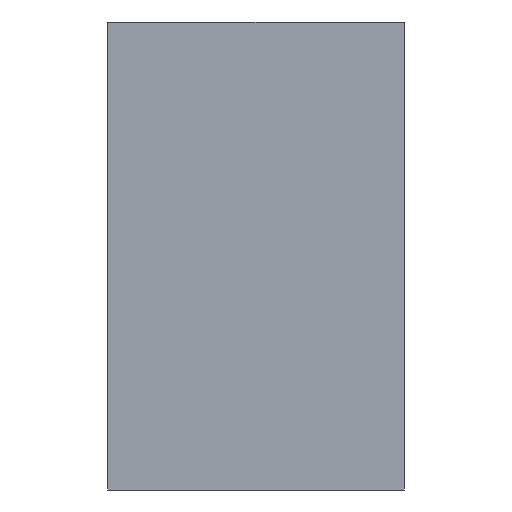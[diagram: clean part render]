
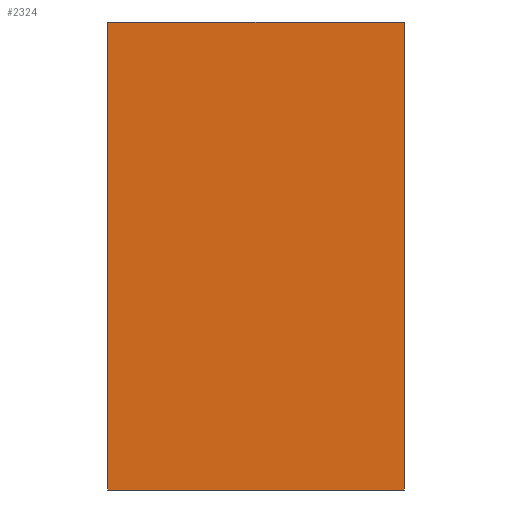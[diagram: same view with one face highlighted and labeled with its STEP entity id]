
A CAD part, left-side view. The second image highlights one B-rep face of the part: STEP entity #2324.
In plain terms, the highlighted planar face has unit normal (-1, 0, 0).
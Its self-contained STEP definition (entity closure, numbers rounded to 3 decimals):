
#273 = EDGE_CURVE ( 'NONE', #1117, #348, #4778, .T. ) ;
#311 = CARTESIAN_POINT ( 'NONE',  ( 0., -19., -30. ) ) ;
#319 = CARTESIAN_POINT ( 'NONE',  ( 0., 19., 30. ) ) ;
#348 = VERTEX_POINT ( 'NONE', #4791 ) ;
#564 = CARTESIAN_POINT ( 'NONE',  ( 0., -19., 30. ) ) ;
#836 = VERTEX_POINT ( 'NONE', #564 ) ;
#1117 = VERTEX_POINT ( 'NONE', #311 ) ;
#1615 = ORIENTED_EDGE ( 'NONE', *, *, #4483, .F. ) ;
#1674 = PLANE ( 'NONE',  #2762 ) ;
#1720 = EDGE_LOOP ( 'NONE', ( #1615, #3086, #2973, #3540 ) ) ;
#2062 = CARTESIAN_POINT ( 'NONE',  ( 0., 19., -30. ) ) ;
#2106 = DIRECTION ( 'NONE',  ( -1., 0., 0. ) ) ;
#2129 = DIRECTION ( 'NONE',  ( 0., 0., 1. ) ) ;
#2274 = VERTEX_POINT ( 'NONE', #319 ) ;
#2324 = ADVANCED_FACE ( 'NONE', ( #3228 ), #1674, .T. ) ;
#2567 = VECTOR ( 'NONE', #4732, 1000. ) ;
#2584 = LINE ( 'NONE', #4698, #2567 ) ;
#2588 = VECTOR ( 'NONE', #4478, 1000. ) ;
#2592 = LINE ( 'NONE', #4419, #2588 ) ;
#2762 = AXIS2_PLACEMENT_3D ( 'NONE', #2062, #2106, #2129 ) ;
#2973 = ORIENTED_EDGE ( 'NONE', *, *, #3402, .T. ) ;
#3086 = ORIENTED_EDGE ( 'NONE', *, *, #273, .F. ) ;
#3228 = FACE_OUTER_BOUND ( 'NONE', #1720, .T. ) ;
#3402 = EDGE_CURVE ( 'NONE', #1117, #836, #3476, .T. ) ;
#3438 = VECTOR ( 'NONE', #4254, 1000. ) ;
#3476 = LINE ( 'NONE', #4038, #3438 ) ;
#3540 = ORIENTED_EDGE ( 'NONE', *, *, #4458, .T. ) ;
#4038 = CARTESIAN_POINT ( 'NONE',  ( 0., -19., -30.707 ) ) ;
#4254 = DIRECTION ( 'NONE',  ( 0., 0., 1. ) ) ;
#4334 = VECTOR ( 'NONE', #4391, 1000. ) ;
#4391 = DIRECTION ( 'NONE',  ( 0., 1., 0. ) ) ;
#4419 = CARTESIAN_POINT ( 'NONE',  ( 0., -19.707, 30. ) ) ;
#4458 = EDGE_CURVE ( 'NONE', #836, #2274, #2592, .T. ) ;
#4478 = DIRECTION ( 'NONE',  ( 0., 1., 0. ) ) ;
#4483 = EDGE_CURVE ( 'NONE', #348, #2274, #2584, .T. ) ;
#4698 = CARTESIAN_POINT ( 'NONE',  ( 0., 19., -30.707 ) ) ;
#4732 = DIRECTION ( 'NONE',  ( 0., 0., 1. ) ) ;
#4778 = LINE ( 'NONE', #5052, #4334 ) ;
#4791 = CARTESIAN_POINT ( 'NONE',  ( 0., 19., -30. ) ) ;
#5052 = CARTESIAN_POINT ( 'NONE',  ( 0., -19.707, -30. ) ) ;
